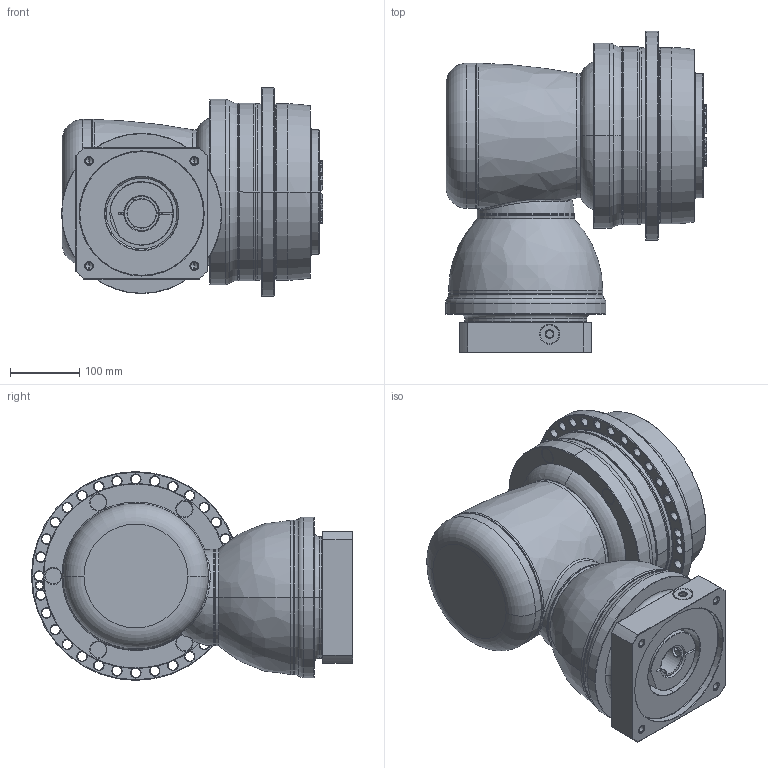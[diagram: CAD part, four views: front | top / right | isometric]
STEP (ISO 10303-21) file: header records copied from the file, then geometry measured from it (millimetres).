
FILE_DESCRIPTION((''),'2;1');
FILE_NAME('APCK255_2ST_42-P0409A00201_ASM','2018-05-10T',('d01226'),(''),'PRO/ENGINEER BY PARAMETRIC TECHNOLOGY CORPORATION, 2008410','PRO/ENGINEER BY PARAMETRIC TECHNOLOGY CORPORATION, 2008410','');
FILE_SCHEMA(('CONFIG_CONTROL_DESIGN'));
Length unit declared in the file: millimetre
Products named in the file (13): P1008600002; P1802710001; P0278701003; P0359770103; P1211700001; P1315600001; P1007601001; P1318610301; P0409A00201; P0503A00012; P0912603001; 21711422019; APCK255_2ST_42-P0409A00201_ASM
Assembly tree (12 placements, depth 2):
  APCK255_2ST_42-P0409A00201_ASM
    P1008600002
    P1802710001
    P0278701003
    P0359770103
    P1211700001
    P1315600001
    P1007601001
    P1318610301
    P0409A00201
    P0503A00012
    P0912603001
    21711422019
Bounding box: 377.6 x 464.5 x 302 mm (x, y, z)
Volume: 21677398.3 mm3; surface area: 1390465.1 mm2
Topology: 13 solids, 25 shells, 863 faces, 2070 edges, 1267 vertices
Faces by surface type: cone 280, cylinder 271, plane 154, torus 125, bspline 31, sphere 2
Entity records: 32325 total; most frequent: CARTESIAN_POINT 11607, DIRECTION 4667, ORIENTED_EDGE 4062, EDGE_CURVE 2056, AXIS2_PLACEMENT_3D 2045, VERTEX_POINT 1267, CIRCLE 1176, EDGE_LOOP 995
